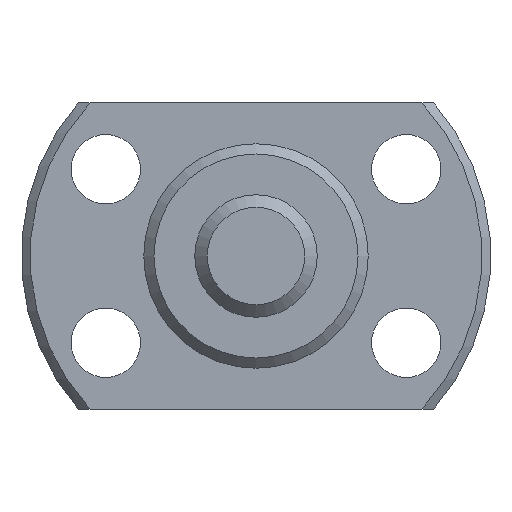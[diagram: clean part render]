
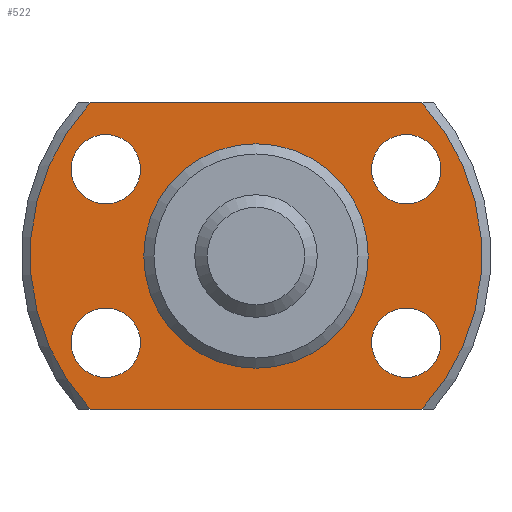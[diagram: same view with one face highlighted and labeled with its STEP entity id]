
A CAD part, left-side view. The second image highlights one B-rep face of the part: STEP entity #522.
In plain terms, the highlighted planar face has unit normal (-1, 0, 0) as drawn and (1, 0, 0) by its records, which use the part's own axes.
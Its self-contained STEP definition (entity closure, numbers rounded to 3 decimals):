
#70=LINE('',#921,#86);
#71=LINE('',#923,#87);
#86=VECTOR('',#759,1000.);
#87=VECTOR('',#760,1000.);
#165=ORIENTED_EDGE('',*,*,#256,.T.);
#166=ORIENTED_EDGE('',*,*,#234,.T.);
#167=ORIENTED_EDGE('',*,*,#257,.T.);
#168=ORIENTED_EDGE('',*,*,#258,.T.);
#169=ORIENTED_EDGE('',*,*,#259,.F.);
#170=ORIENTED_EDGE('',*,*,#260,.F.);
#171=ORIENTED_EDGE('',*,*,#261,.F.);
#172=ORIENTED_EDGE('',*,*,#262,.F.);
#173=ORIENTED_EDGE('',*,*,#255,.F.);
#234=EDGE_CURVE('',#288,#290,#332,.T.);
#255=EDGE_CURVE('',#309,#309,#347,.T.);
#256=EDGE_CURVE('',#310,#288,#70,.T.);
#257=EDGE_CURVE('',#290,#311,#71,.T.);
#258=EDGE_CURVE('',#311,#310,#348,.T.);
#259=EDGE_CURVE('',#312,#312,#349,.T.);
#260=EDGE_CURVE('',#313,#313,#350,.T.);
#261=EDGE_CURVE('',#314,#314,#351,.T.);
#262=EDGE_CURVE('',#315,#315,#352,.T.);
#288=VERTEX_POINT('',#856);
#290=VERTEX_POINT('',#863);
#309=VERTEX_POINT('',#919);
#310=VERTEX_POINT('',#922);
#311=VERTEX_POINT('',#924);
#312=VERTEX_POINT('',#927);
#313=VERTEX_POINT('',#929);
#314=VERTEX_POINT('',#931);
#315=VERTEX_POINT('',#933);
#332=CIRCLE('',#589,11.063);
#347=CIRCLE('',#613,5.3);
#348=CIRCLE('',#615,11.063);
#349=CIRCLE('',#616,1.7);
#350=CIRCLE('',#617,1.7);
#351=CIRCLE('',#618,1.7);
#352=CIRCLE('',#619,1.7);
#399=EDGE_LOOP('',(#165,#166,#167,#168));
#400=EDGE_LOOP('',(#169));
#401=EDGE_LOOP('',(#170));
#402=EDGE_LOOP('',(#171));
#403=EDGE_LOOP('',(#172));
#404=EDGE_LOOP('',(#173));
#463=FACE_BOUND('',#399,.T.);
#464=FACE_BOUND('',#400,.T.);
#465=FACE_BOUND('',#401,.T.);
#466=FACE_BOUND('',#402,.T.);
#467=FACE_BOUND('',#403,.T.);
#468=FACE_BOUND('',#404,.T.);
#494=PLANE('',#614);
#522=ADVANCED_FACE('',(#463,#464,#465,#466,#467,#468),#494,.T.);
#589=AXIS2_PLACEMENT_3D('',#864,#703,#704);
#613=AXIS2_PLACEMENT_3D('',#918,#755,#756);
#614=AXIS2_PLACEMENT_3D('',#920,#757,#758);
#615=AXIS2_PLACEMENT_3D('',#925,#761,#762);
#616=AXIS2_PLACEMENT_3D('',#926,#763,#764);
#617=AXIS2_PLACEMENT_3D('',#928,#765,#766);
#618=AXIS2_PLACEMENT_3D('',#930,#767,#768);
#619=AXIS2_PLACEMENT_3D('',#932,#769,#770);
#703=DIRECTION('',(1.,0.,0.));
#704=DIRECTION('',(0.,0.,-1.));
#755=DIRECTION('',(1.,0.,0.));
#756=DIRECTION('',(0.,0.,-1.));
#757=DIRECTION('',(1.,0.,0.));
#758=DIRECTION('',(0.,0.,-1.));
#759=DIRECTION('',(0.,-1.,0.));
#760=DIRECTION('',(0.,1.,0.));
#761=DIRECTION('',(1.,0.,0.));
#762=DIRECTION('',(0.,0.,-1.));
#763=DIRECTION('',(1.,0.,0.));
#764=DIRECTION('',(0.,0.,-1.));
#765=DIRECTION('',(1.,0.,0.));
#766=DIRECTION('',(0.,0.,-1.));
#767=DIRECTION('',(1.,0.,0.));
#768=DIRECTION('',(0.,0.,-1.));
#769=DIRECTION('',(1.,0.,0.));
#770=DIRECTION('',(0.,0.,-1.));
#856=CARTESIAN_POINT('',(3.5,-8.132,7.5));
#863=CARTESIAN_POINT('',(3.5,-8.132,-7.5));
#864=CARTESIAN_POINT('',(3.5,0.,0.));
#918=CARTESIAN_POINT('',(3.5,0.,0.));
#919=CARTESIAN_POINT('',(3.5,0.,-5.3));
#920=CARTESIAN_POINT('',(3.5,5.3,0.));
#921=CARTESIAN_POINT('',(3.5,11.5,7.5));
#922=CARTESIAN_POINT('',(3.5,8.132,7.5));
#923=CARTESIAN_POINT('',(3.5,-11.5,-7.5));
#924=CARTESIAN_POINT('',(3.5,8.132,-7.5));
#925=CARTESIAN_POINT('',(3.5,0.,0.));
#926=CARTESIAN_POINT('',(3.5,7.361,4.25));
#927=CARTESIAN_POINT('',(3.5,7.361,2.55));
#928=CARTESIAN_POINT('',(3.5,-7.361,4.25));
#929=CARTESIAN_POINT('',(3.5,-7.361,2.55));
#930=CARTESIAN_POINT('',(3.5,-7.361,-4.25));
#931=CARTESIAN_POINT('',(3.5,-7.361,-5.95));
#932=CARTESIAN_POINT('',(3.5,7.361,-4.25));
#933=CARTESIAN_POINT('',(3.5,7.361,-5.95));
